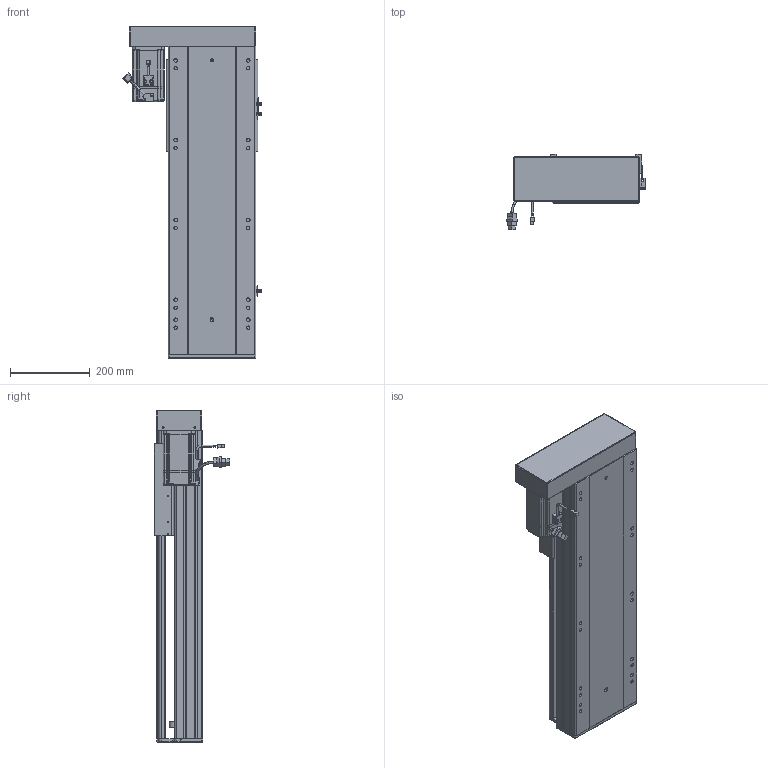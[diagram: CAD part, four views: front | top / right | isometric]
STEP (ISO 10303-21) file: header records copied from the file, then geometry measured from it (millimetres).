
FILE_DESCRIPTION (( 'STEP AP203' ), '1' );
FILE_NAME ('RY220-L2525-300-LK.SLDASM_450.step', '2022-07-04T01:46:28', ( '' ), ( '' ), 'SwSTEP 2.0', 'SolidWorks 2016', '' );
FILE_SCHEMA (( 'CONFIG_CONTROL_DESIGN' ));
Length unit declared in the file: millimetre
Products named in the file (12): RY220半封闭25-32螺母铝滑块; RY220-俋离672覜茼んえ; RY220酘衵殏萇儂欶; 滅袉蝶18-15; RY220左右折电机安装板; RY220蛌殏菁釱-300_450; 覜茼ん672; 滅袉蝶18-10; RY220綴裔啣; 怢湛750W_ECMA-CX0807ES; RY220-300-蛌殏奻裔啣_450; RY220-L2525-300-LK.SLDASM_450
Assembly tree (15 placements, depth 2):
  RY220-L2525-300-LK.SLDASM_450
    RY220蛌殏菁釱-300_450
    RY220-300-蛌殏奻裔啣_450
    怢湛750W_ECMA-CX0807ES
    滅袉蝶18-10  x2
    RY220-俋离672覜茼んえ
    覜茼ん672  x3
    RY220綴裔啣
    RY220半封闭25-32螺母铝滑块
    滅袉蝶18-15  x2
    RY220左右折电机安装板
    RY220酘衵殏萇儂欶
Bounding box: 347.44 x 189.27 x 832 mm (x, y, z)
Volume: 7998501.7 mm3; surface area: 2217570.6 mm2
Topology: 16 solids, 16 shells, 2039 faces, 5624 edges, 3581 vertices
Faces by surface type: plane 896, cylinder 895, cone 178, bspline 44, sphere 16, torus 10
Entity records: 67357 total; most frequent: CARTESIAN_POINT 19739, ORIENTED_EDGE 9920, DIRECTION 9212, EDGE_CURVE 4960, VERTEX_POINT 3237, AXIS2_PLACEMENT_3D 3201, LINE 2810, VECTOR 2810
